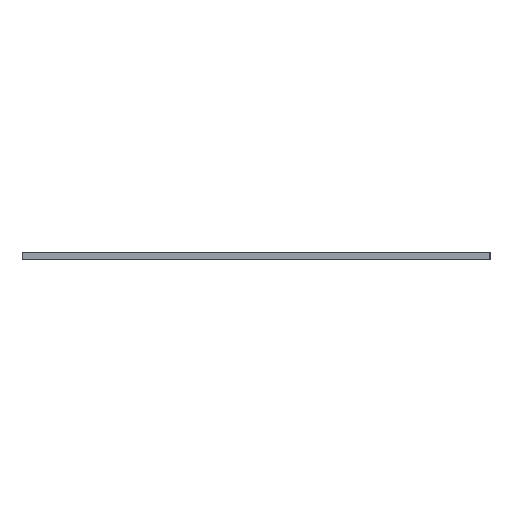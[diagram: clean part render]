
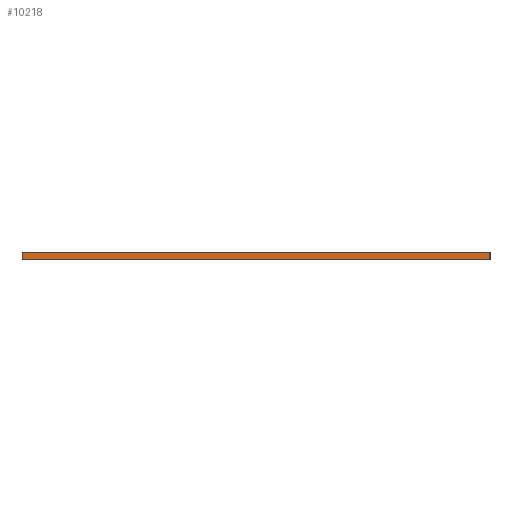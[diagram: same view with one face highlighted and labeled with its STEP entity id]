
A CAD part, left-side view. The second image highlights one B-rep face of the part: STEP entity #10218.
In plain terms, the highlighted planar face has unit normal (-1, 0, 0).
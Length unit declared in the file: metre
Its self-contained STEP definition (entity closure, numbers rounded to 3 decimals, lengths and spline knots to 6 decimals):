
#12=LINE('',#17341,#30);
#13=LINE('',#17344,#31);
#14=LINE('',#17346,#32);
#15=LINE('',#17348,#33);
#30=VECTOR('',#14787,1.);
#31=VECTOR('',#14788,1.);
#32=VECTOR('',#14789,1.);
#33=VECTOR('',#14790,1.);
#48=PLANE('',#11751);
#1064=ORIENTED_EDGE('',*,*,#3116,.T.);
#1065=ORIENTED_EDGE('',*,*,#3117,.T.);
#1066=ORIENTED_EDGE('',*,*,#3118,.F.);
#1067=ORIENTED_EDGE('',*,*,#3119,.F.);
#3116=EDGE_CURVE('',#4142,#4143,#12,.T.);
#3117=EDGE_CURVE('',#4143,#4144,#13,.T.);
#3118=EDGE_CURVE('',#4145,#4144,#14,.T.);
#3119=EDGE_CURVE('',#4142,#4145,#15,.T.);
#4142=VERTEX_POINT('',#17342);
#4143=VERTEX_POINT('',#17343);
#4144=VERTEX_POINT('',#17345);
#4145=VERTEX_POINT('',#17347);
#6170=EDGE_LOOP('',(#1064,#1065,#1066,#1067));
#8194=FACE_BOUND('',#6170,.T.);
#10218=ADVANCED_FACE('',(#8194),#48,.T.);
#11751=AXIS2_PLACEMENT_3D('',#17340,#14785,#14786);
#14785=DIRECTION('',(-1.,0.,0.));
#14786=DIRECTION('',(0.,1.,0.));
#14787=DIRECTION('',(0.,0.,1.));
#14788=DIRECTION('',(0.,1.,0.));
#14789=DIRECTION('',(0.,0.,1.));
#14790=DIRECTION('',(0.,1.,0.));
#17340=CARTESIAN_POINT('',(0.004763,-0.169069,0.));
#17341=CARTESIAN_POINT('',(0.004763,-0.169069,0.));
#17342=CARTESIAN_POINT('',(0.004763,-0.169069,0.));
#17343=CARTESIAN_POINT('',(0.004763,-0.169069,0.00151));
#17344=CARTESIAN_POINT('',(0.004763,-0.169069,0.00151));
#17345=CARTESIAN_POINT('',(0.004763,-0.069056,0.00151));
#17346=CARTESIAN_POINT('',(0.004763,-0.069056,0.));
#17347=CARTESIAN_POINT('',(0.004763,-0.069056,0.));
#17348=CARTESIAN_POINT('',(0.004763,-0.169069,0.));
